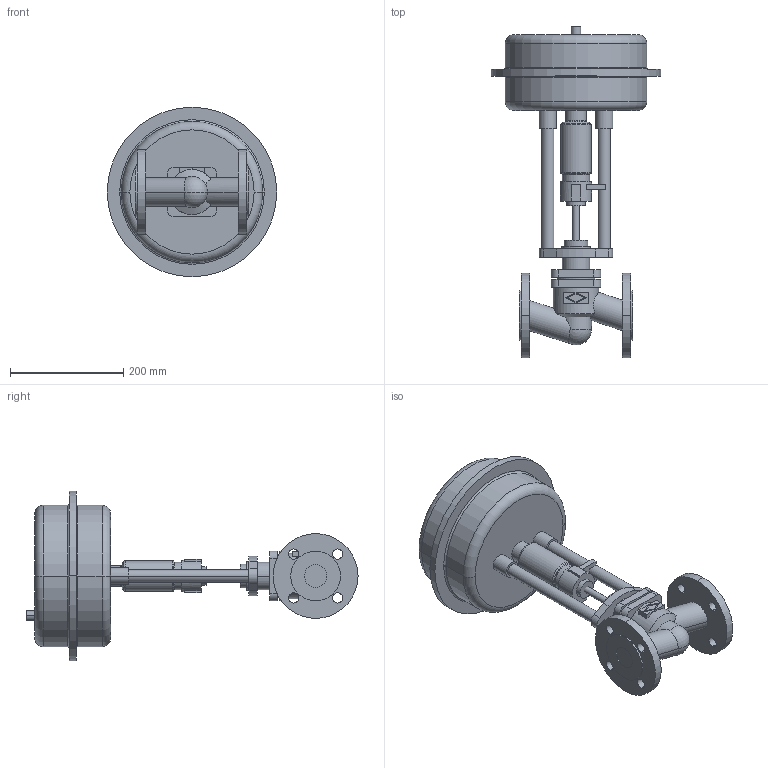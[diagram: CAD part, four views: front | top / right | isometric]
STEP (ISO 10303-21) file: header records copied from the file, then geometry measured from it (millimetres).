
FILE_DESCRIPTION(('OneSpaceDesigner STEP Export'),'2;1');
FILE_NAME('c000001487.stp','2005-02-15T 9:32:12',(''),(''),'OneSpace Designer STEP processor (Jan. 2003) for AP203(Solid Model)','OneSpace Designer 12.01D 09-Jul-2004 (C) CoCreate Software GmbH','');
FILE_SCHEMA(('CONFIG_CONTROL_DESIGN'));
Length unit declared in the file: millimetre
Products named in the file (2): 1; 2
Bounding box: 300 x 587.6 x 300 mm (x, y, z)
Volume: 8842411.6 mm3; surface area: 477464.6 mm2
Topology: 2 solids, 2 shells, 181 faces, 434 edges, 282 vertices
Faces by surface type: cylinder 84, plane 73, torus 16, cone 6, sphere 2
Entity records: 5087 total; most frequent: CARTESIAN_POINT 1034, ORIENTED_EDGE 864, DIRECTION 727, EDGE_CURVE 432, VERTEX_POINT 282, AXIS2_PLACEMENT_3D 264, EDGE_LOOP 224, VECTOR 199
